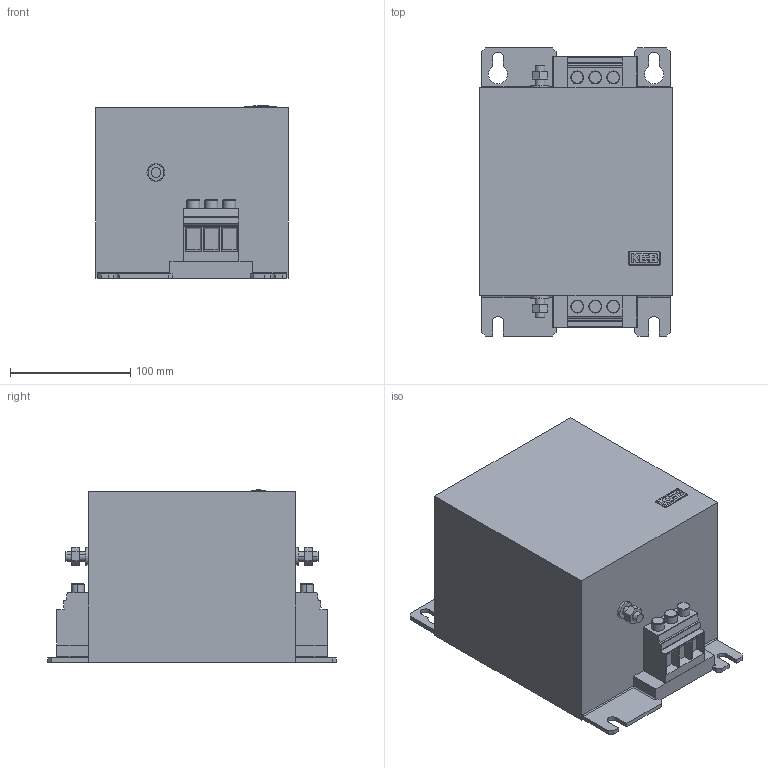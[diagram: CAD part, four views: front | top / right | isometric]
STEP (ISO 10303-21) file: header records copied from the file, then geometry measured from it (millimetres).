
FILE_DESCRIPTION (( 'STEP AP214' ), '1' );
FILE_NAME ('00E6X07-0020.STEP', '2023-07-10T13:08:06', ( '' ), ( '' ), 'SwSTEP 2.0', 'SolidWorks 2022', '' );
FILE_SCHEMA (( 'AUTOMOTIVE_DESIGN' ));
Length unit declared in the file: millimetre
Products named in the file (1): 00E6X07-0020
Bounding box: 160 x 240 x 143.53 mm (x, y, z)
Volume: 4094232.1 mm3; surface area: 178932.5 mm2
Topology: 1 solids, 1 shells, 256 faces, 667 edges, 438 vertices
Faces by surface type: plane 165, cylinder 60, cone 18, bspline 13
Entity records: 8742 total; most frequent: CARTESIAN_POINT 2353, ORIENTED_EDGE 1334, DIRECTION 1157, EDGE_CURVE 667, VERTEX_POINT 438, VECTOR 417, LINE 417, AXIS2_PLACEMENT_3D 370
